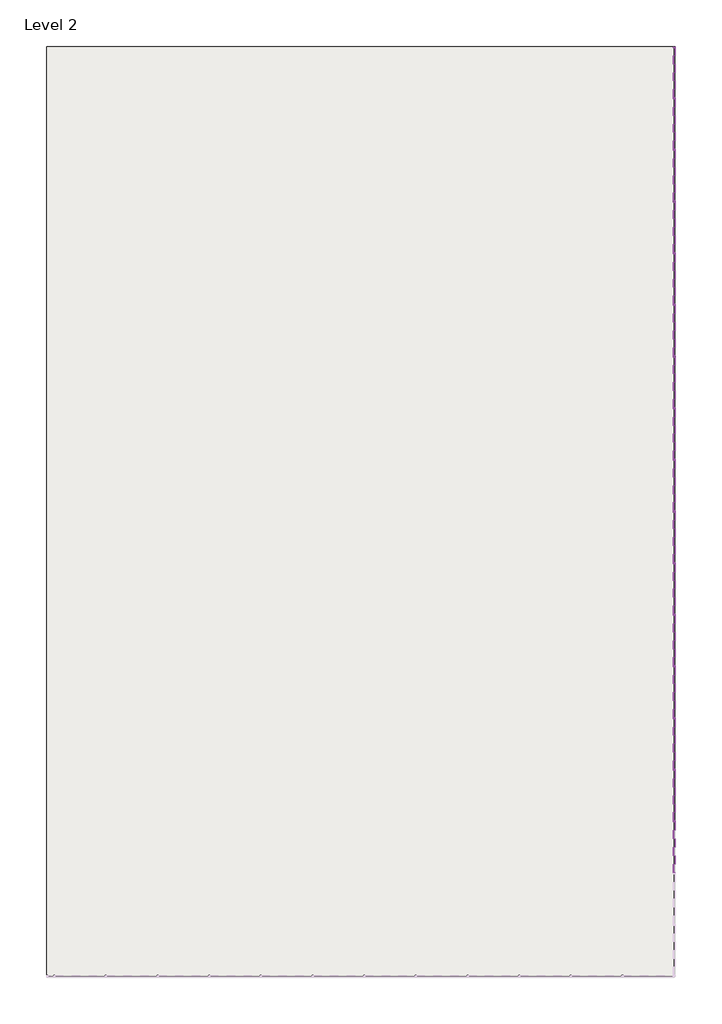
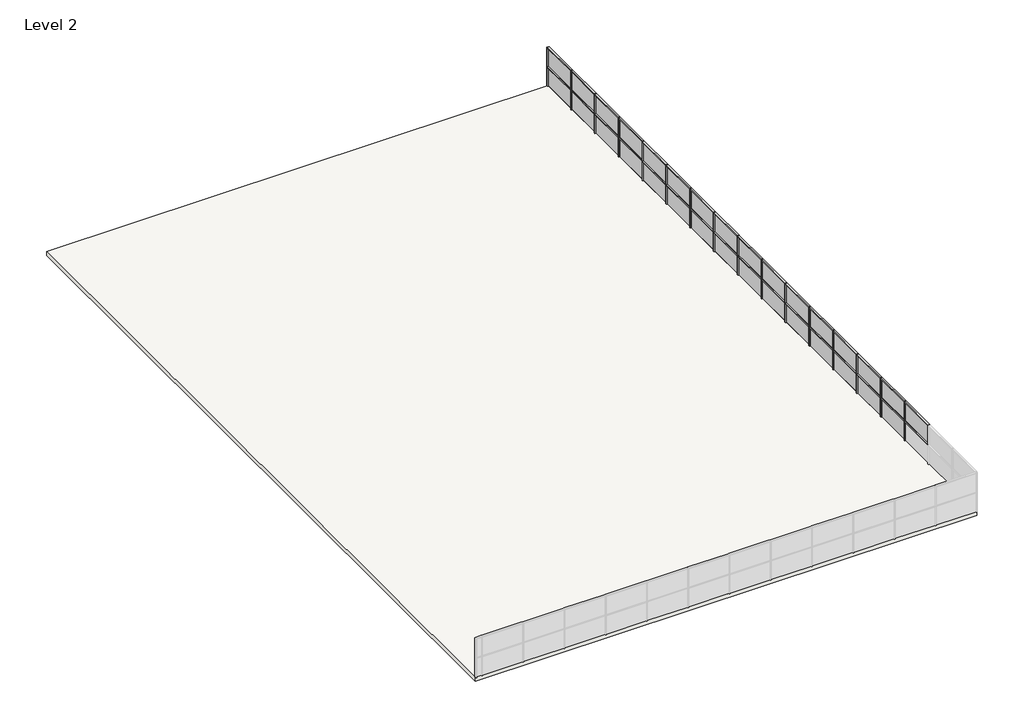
# One storey, part 2 of 2: 64 members, 31 plates, 1 slab.
"""IFC4 building model written with IfcOpenShell, lengths in millimetres."""

from ifc_helpers import new_model, si_unit, frame, origin, place, context, project, spatial, polyline, outline, extrude, transform, mapped, element, save
from components import member_8cef0660, member_c65d5026, member_82905deb, member_4491d118, system_panel_glazed_88acb840, system_panel_glazed_2a6c68b7

model = new_model("IFC4")

# Units and contexts
model_context = context("Model", 3, world=origin())
ifc_project = project(units=[si_unit("LENGTHUNIT", "METRE", prefix="MILLI")], contexts=[model_context])

# Site, building, storey
site = spatial("IfcSite", under=ifc_project)
building = spatial("IfcBuilding", under=site)
storey = spatial("IfcBuildingStorey", under=building, Name="Level 2", Elevation=3048.0)

# Members
placement = place(None, origin())
member_shape = member_8cef0660(model_context)
element("IfcMember", 1, ObjectType="Rectangular Mullion : 2.5\" x 5\" rectangular", at=placement, inside=storey, context=model_context, shape_type="MappedRepresentation", body=[
    mapped(member_shape, transform((-7003.8511466, -33649.3111797, 6096.0), x_axis=(0.0, 0.0, 1.0), y_axis=(1.0, 0.0, 0.0), z_axis=(0.0, 1.0, 0.0))),
])
element("IfcMember", 2, ObjectType="Rectangular Mullion : 2.5\" x 5\" rectangular", at=placement, inside=storey, context=model_context, shape_type="MappedRepresentation", body=[
    mapped(member_shape, transform((-7003.8511466, -30601.3111797, 6096.0), x_axis=(0.0, 0.0, 1.0), y_axis=(1.0, 0.0, 0.0), z_axis=(0.0, 1.0, 0.0))),
])
element("IfcMember", 3, ObjectType="Rectangular Mullion : 2.5\" x 5\" rectangular", at=placement, inside=storey, context=model_context, shape_type="MappedRepresentation", body=[
    mapped(member_shape, transform((-7003.8511466, -27553.3111797, 6096.0), x_axis=(0.0, 0.0, 1.0), y_axis=(1.0, 0.0, 0.0), z_axis=(0.0, 1.0, 0.0))),
])
element("IfcMember", 4, ObjectType="Rectangular Mullion : 2.5\" x 5\" rectangular", at=placement, inside=storey, context=model_context, shape_type="MappedRepresentation", body=[
    mapped(member_shape, transform((-7003.8511466, -24505.3111797, 6096.0), x_axis=(0.0, 0.0, 1.0), y_axis=(1.0, 0.0, 0.0), z_axis=(0.0, 1.0, 0.0))),
])
element("IfcMember", 5, ObjectType="Rectangular Mullion : 2.5\" x 5\" rectangular", at=placement, inside=storey, context=model_context, shape_type="MappedRepresentation", body=[
    mapped(member_shape, transform((-7003.8511466, -21457.3111797, 6096.0), x_axis=(0.0, 0.0, 1.0), y_axis=(1.0, 0.0, 0.0), z_axis=(0.0, 1.0, 0.0))),
])
element("IfcMember", 6, ObjectType="Rectangular Mullion : 2.5\" x 5\" rectangular", at=placement, inside=storey, context=model_context, shape_type="MappedRepresentation", body=[
    mapped(member_shape, transform((-7003.8511466, -18409.3111797, 6096.0), x_axis=(0.0, 0.0, 1.0), y_axis=(1.0, 0.0, 0.0), z_axis=(0.0, 1.0, 0.0))),
])
element("IfcMember", 7, ObjectType="Rectangular Mullion : 2.5\" x 5\" rectangular", at=placement, inside=storey, context=model_context, shape_type="MappedRepresentation", body=[
    mapped(member_shape, transform((-7003.8511466, -15361.3111797, 6096.0), x_axis=(0.0, 0.0, 1.0), y_axis=(1.0, 0.0, 0.0), z_axis=(0.0, 1.0, 0.0))),
])
element("IfcMember", 8, ObjectType="Rectangular Mullion : 2.5\" x 5\" rectangular", at=placement, inside=storey, context=model_context, shape_type="MappedRepresentation", body=[
    mapped(member_shape, transform((-7003.8511466, -12313.3111797, 6096.0), x_axis=(0.0, 0.0, 1.0), y_axis=(1.0, 0.0, 0.0), z_axis=(0.0, 1.0, 0.0))),
])
element("IfcMember", 9, ObjectType="Rectangular Mullion : 2.5\" x 5\" rectangular", at=placement, inside=storey, context=model_context, shape_type="MappedRepresentation", body=[
    mapped(member_shape, transform((-7003.8511466, -9265.3111797, 6096.0), x_axis=(0.0, 0.0, 1.0), y_axis=(1.0, 0.0, 0.0), z_axis=(0.0, 1.0, 0.0))),
])
element("IfcMember", 10, ObjectType="Rectangular Mullion : 2.5\" x 5\" rectangular", at=placement, inside=storey, context=model_context, shape_type="MappedRepresentation", body=[
    mapped(member_shape, transform((-7003.8511466, -6217.3111797, 6096.0), x_axis=(0.0, 0.0, 1.0), y_axis=(1.0, 0.0, 0.0), z_axis=(0.0, 1.0, 0.0))),
])
element("IfcMember", 11, ObjectType="Rectangular Mullion : 2.5\" x 5\" rectangular", at=placement, inside=storey, context=model_context, shape_type="MappedRepresentation", body=[
    mapped(member_shape, transform((-7003.8511466, -3169.3111797, 6096.0), x_axis=(0.0, 0.0, 1.0), y_axis=(1.0, 0.0, 0.0), z_axis=(0.0, 1.0, 0.0))),
])
element("IfcMember", 12, ObjectType="Rectangular Mullion : 2.5\" x 5\" rectangular", at=placement, inside=storey, context=model_context, shape_type="MappedRepresentation", body=[
    mapped(member_shape, transform((-7003.8511466, -121.3111797, 6096.0), x_axis=(0.0, 0.0, 1.0), y_axis=(1.0, 0.0, 0.0), z_axis=(0.0, 1.0, 0.0))),
])
element("IfcMember", 13, ObjectType="Rectangular Mullion : 2.5\" x 5\" rectangular", at=placement, inside=storey, context=model_context, shape_type="MappedRepresentation", body=[
    mapped(member_shape, transform((-7003.8511466, 2926.6888203, 6096.0), x_axis=(0.0, 0.0, 1.0), y_axis=(1.0, 0.0, 0.0), z_axis=(0.0, 1.0, 0.0))),
])
element("IfcMember", 14, ObjectType="Rectangular Mullion : 2.5\" x 5\" rectangular", at=placement, inside=storey, context=model_context, shape_type="MappedRepresentation", body=[
    mapped(member_shape, transform((-7003.8511466, 5974.6888203, 6096.0), x_axis=(0.0, 0.0, 1.0), y_axis=(1.0, 0.0, 0.0), z_axis=(0.0, 1.0, 0.0))),
])
element("IfcMember", 15, ObjectType="Rectangular Mullion : 2.5\" x 5\" rectangular", at=placement, inside=storey, context=model_context, shape_type="MappedRepresentation", body=[
    mapped(member_shape, transform((-7003.8511466, 9022.6888203, 6096.0), x_axis=(0.0, 0.0, 1.0), y_axis=(1.0, 0.0, 0.0), z_axis=(0.0, 1.0, 0.0))),
])
element("IfcMember", 16, ObjectType="Rectangular Mullion : 2.5\" x 5\" rectangular", at=placement, inside=storey, context=model_context, shape_type="MappedRepresentation", body=[
    mapped(member_shape, transform((-7003.8511466, -33649.3111797, 4572.0), x_axis=(0.0, 0.0, 1.0), y_axis=(1.0, 0.0, 0.0), z_axis=(0.0, 1.0, 0.0))),
])
element("IfcMember", 17, ObjectType="Rectangular Mullion : 2.5\" x 5\" rectangular", at=placement, inside=storey, context=model_context, shape_type="MappedRepresentation", body=[
    mapped(member_shape, transform((-7003.8511466, -30601.3111797, 4572.0), x_axis=(0.0, 0.0, 1.0), y_axis=(1.0, 0.0, 0.0), z_axis=(0.0, 1.0, 0.0))),
])
element("IfcMember", 18, ObjectType="Rectangular Mullion : 2.5\" x 5\" rectangular", at=placement, inside=storey, context=model_context, shape_type="MappedRepresentation", body=[
    mapped(member_shape, transform((-7003.8511466, -27553.3111797, 4572.0), x_axis=(0.0, 0.0, 1.0), y_axis=(1.0, 0.0, 0.0), z_axis=(0.0, 1.0, 0.0))),
])
element("IfcMember", 19, ObjectType="Rectangular Mullion : 2.5\" x 5\" rectangular", at=placement, inside=storey, context=model_context, shape_type="MappedRepresentation", body=[
    mapped(member_shape, transform((-7003.8511466, -24505.3111797, 4572.0), x_axis=(0.0, 0.0, 1.0), y_axis=(1.0, 0.0, 0.0), z_axis=(0.0, 1.0, 0.0))),
])
element("IfcMember", 20, ObjectType="Rectangular Mullion : 2.5\" x 5\" rectangular", at=placement, inside=storey, context=model_context, shape_type="MappedRepresentation", body=[
    mapped(member_shape, transform((-7003.8511466, -21457.3111797, 4572.0), x_axis=(0.0, 0.0, 1.0), y_axis=(1.0, 0.0, 0.0), z_axis=(0.0, 1.0, 0.0))),
])
element("IfcMember", 21, ObjectType="Rectangular Mullion : 2.5\" x 5\" rectangular", at=placement, inside=storey, context=model_context, shape_type="MappedRepresentation", body=[
    mapped(member_shape, transform((-7003.8511466, -18409.3111797, 4572.0), x_axis=(0.0, 0.0, 1.0), y_axis=(1.0, 0.0, 0.0), z_axis=(0.0, 1.0, 0.0))),
])
element("IfcMember", 22, ObjectType="Rectangular Mullion : 2.5\" x 5\" rectangular", at=placement, inside=storey, context=model_context, shape_type="MappedRepresentation", body=[
    mapped(member_shape, transform((-7003.8511466, -15361.3111797, 4572.0), x_axis=(0.0, 0.0, 1.0), y_axis=(1.0, 0.0, 0.0), z_axis=(0.0, 1.0, 0.0))),
])
element("IfcMember", 23, ObjectType="Rectangular Mullion : 2.5\" x 5\" rectangular", at=placement, inside=storey, context=model_context, shape_type="MappedRepresentation", body=[
    mapped(member_shape, transform((-7003.8511466, -12313.3111797, 4572.0), x_axis=(0.0, 0.0, 1.0), y_axis=(1.0, 0.0, 0.0), z_axis=(0.0, 1.0, 0.0))),
])
element("IfcMember", 24, ObjectType="Rectangular Mullion : 2.5\" x 5\" rectangular", at=placement, inside=storey, context=model_context, shape_type="MappedRepresentation", body=[
    mapped(member_shape, transform((-7003.8511466, -9265.3111797, 4572.0), x_axis=(0.0, 0.0, 1.0), y_axis=(1.0, 0.0, 0.0), z_axis=(0.0, 1.0, 0.0))),
])
element("IfcMember", 25, ObjectType="Rectangular Mullion : 2.5\" x 5\" rectangular", at=placement, inside=storey, context=model_context, shape_type="MappedRepresentation", body=[
    mapped(member_shape, transform((-7003.8511466, -6217.3111797, 4572.0), x_axis=(0.0, 0.0, 1.0), y_axis=(1.0, 0.0, 0.0), z_axis=(0.0, 1.0, 0.0))),
])
element("IfcMember", 26, ObjectType="Rectangular Mullion : 2.5\" x 5\" rectangular", at=placement, inside=storey, context=model_context, shape_type="MappedRepresentation", body=[
    mapped(member_shape, transform((-7003.8511466, -3169.3111797, 4572.0), x_axis=(0.0, 0.0, 1.0), y_axis=(1.0, 0.0, 0.0), z_axis=(0.0, 1.0, 0.0))),
])
element("IfcMember", 27, ObjectType="Rectangular Mullion : 2.5\" x 5\" rectangular", at=placement, inside=storey, context=model_context, shape_type="MappedRepresentation", body=[
    mapped(member_shape, transform((-7003.8511466, -121.3111797, 4572.0), x_axis=(0.0, 0.0, 1.0), y_axis=(1.0, 0.0, 0.0), z_axis=(0.0, 1.0, 0.0))),
])
element("IfcMember", 28, ObjectType="Rectangular Mullion : 2.5\" x 5\" rectangular", at=placement, inside=storey, context=model_context, shape_type="MappedRepresentation", body=[
    mapped(member_shape, transform((-7003.8511466, 2926.6888203, 4572.0), x_axis=(0.0, 0.0, 1.0), y_axis=(1.0, 0.0, 0.0), z_axis=(0.0, 1.0, 0.0))),
])
element("IfcMember", 29, ObjectType="Rectangular Mullion : 2.5\" x 5\" rectangular", at=placement, inside=storey, context=model_context, shape_type="MappedRepresentation", body=[
    mapped(member_shape, transform((-7003.8511466, 5974.6888203, 4572.0), x_axis=(0.0, 0.0, 1.0), y_axis=(1.0, 0.0, 0.0), z_axis=(0.0, 1.0, 0.0))),
])
element("IfcMember", 30, ObjectType="Rectangular Mullion : 2.5\" x 5\" rectangular", at=placement, inside=storey, context=model_context, shape_type="MappedRepresentation", body=[
    mapped(member_shape, transform((-7003.8511466, 9022.6888203, 4572.0), x_axis=(0.0, 0.0, 1.0), y_axis=(1.0, 0.0, 0.0), z_axis=(0.0, 1.0, 0.0))),
])
member_2_shape = member_c65d5026(model_context)
element("IfcMember", 31, ObjectType="Rectangular Mullion : 2.5\" x 5\" rectangular", at=placement, inside=storey, context=model_context, shape_type="MappedRepresentation", body=[
    mapped(member_2_shape, transform((-7003.8511466, 12038.9388203, 6096.0), x_axis=(0.0, 0.0, 1.0), y_axis=(1.0, 0.0, 0.0), z_axis=(0.0, 1.0, 0.0))),
])
element("IfcMember", 32, ObjectType="Rectangular Mullion : 2.5\" x 5\" rectangular", at=placement, inside=storey, context=model_context, shape_type="MappedRepresentation", body=[
    mapped(member_2_shape, transform((-7003.8511466, 12038.9388203, 4572.0), x_axis=(0.0, 0.0, 1.0), y_axis=(1.0, 0.0, 0.0), z_axis=(0.0, 1.0, 0.0))),
])
member_3_shape = member_82905deb(model_context)
element("IfcMember", 33, ObjectType="Rectangular Mullion : 2.5\" x 5\" rectangular", at=placement, inside=storey, context=model_context, shape_type="MappedRepresentation", body=[
    mapped(member_3_shape, transform((-7003.8511466, -15329.5611797, 6096.0), x_axis=(0.0, -1.0, 0.0), y_axis=(1.0, 0.0, 0.0), z_axis=(0.0, 0.0, 1.0))),
])
element("IfcMember", 34, ObjectType="Rectangular Mullion : 2.5\" x 5\" rectangular", at=placement, inside=storey, context=model_context, shape_type="MappedRepresentation", body=[
    mapped(member_3_shape, transform((-7003.8511466, -15329.5611797, 4572.0), x_axis=(0.0, -1.0, 0.0), y_axis=(1.0, 0.0, 0.0), z_axis=(0.0, 0.0, 1.0))),
])
element("IfcMember", 35, ObjectType="Rectangular Mullion : 2.5\" x 5\" rectangular", at=placement, inside=storey, context=model_context, shape_type="MappedRepresentation", body=[
    mapped(member_3_shape, transform((-7003.8511466, -12281.5611797, 6096.0), x_axis=(0.0, -1.0, 0.0), y_axis=(1.0, 0.0, 0.0), z_axis=(0.0, 0.0, 1.0))),
])
element("IfcMember", 36, ObjectType="Rectangular Mullion : 2.5\" x 5\" rectangular", at=placement, inside=storey, context=model_context, shape_type="MappedRepresentation", body=[
    mapped(member_3_shape, transform((-7003.8511466, -12281.5611797, 4572.0), x_axis=(0.0, -1.0, 0.0), y_axis=(1.0, 0.0, 0.0), z_axis=(0.0, 0.0, 1.0))),
])
element("IfcMember", 37, ObjectType="Rectangular Mullion : 2.5\" x 5\" rectangular", at=placement, inside=storey, context=model_context, shape_type="MappedRepresentation", body=[
    mapped(member_3_shape, transform((-7003.8511466, -9233.5611797, 6096.0), x_axis=(0.0, -1.0, 0.0), y_axis=(1.0, 0.0, 0.0), z_axis=(0.0, 0.0, 1.0))),
])
element("IfcMember", 38, ObjectType="Rectangular Mullion : 2.5\" x 5\" rectangular", at=placement, inside=storey, context=model_context, shape_type="MappedRepresentation", body=[
    mapped(member_3_shape, transform((-7003.8511466, -9233.5611797, 4572.0), x_axis=(0.0, -1.0, 0.0), y_axis=(1.0, 0.0, 0.0), z_axis=(0.0, 0.0, 1.0))),
])
element("IfcMember", 39, ObjectType="Rectangular Mullion : 2.5\" x 5\" rectangular", at=placement, inside=storey, context=model_context, shape_type="MappedRepresentation", body=[
    mapped(member_3_shape, transform((-7003.8511466, -6185.5611797, 6096.0), x_axis=(0.0, -1.0, 0.0), y_axis=(1.0, 0.0, 0.0), z_axis=(0.0, 0.0, 1.0))),
])
element("IfcMember", 40, ObjectType="Rectangular Mullion : 2.5\" x 5\" rectangular", at=placement, inside=storey, context=model_context, shape_type="MappedRepresentation", body=[
    mapped(member_3_shape, transform((-7003.8511466, -6185.5611797, 4572.0), x_axis=(0.0, -1.0, 0.0), y_axis=(1.0, 0.0, 0.0), z_axis=(0.0, 0.0, 1.0))),
])
element("IfcMember", 41, ObjectType="Rectangular Mullion : 2.5\" x 5\" rectangular", at=placement, inside=storey, context=model_context, shape_type="MappedRepresentation", body=[
    mapped(member_3_shape, transform((-7003.8511466, -3137.5611797, 6096.0), x_axis=(0.0, -1.0, 0.0), y_axis=(1.0, 0.0, 0.0), z_axis=(0.0, 0.0, 1.0))),
])
element("IfcMember", 42, ObjectType="Rectangular Mullion : 2.5\" x 5\" rectangular", at=placement, inside=storey, context=model_context, shape_type="MappedRepresentation", body=[
    mapped(member_3_shape, transform((-7003.8511466, -3137.5611797, 4572.0), x_axis=(0.0, -1.0, 0.0), y_axis=(1.0, 0.0, 0.0), z_axis=(0.0, 0.0, 1.0))),
])
element("IfcMember", 43, ObjectType="Rectangular Mullion : 2.5\" x 5\" rectangular", at=placement, inside=storey, context=model_context, shape_type="MappedRepresentation", body=[
    mapped(member_3_shape, transform((-7003.8511466, -89.5611797, 6096.0), x_axis=(0.0, -1.0, 0.0), y_axis=(1.0, 0.0, 0.0), z_axis=(0.0, 0.0, 1.0))),
])
element("IfcMember", 44, ObjectType="Rectangular Mullion : 2.5\" x 5\" rectangular", at=placement, inside=storey, context=model_context, shape_type="MappedRepresentation", body=[
    mapped(member_3_shape, transform((-7003.8511466, -89.5611797, 4572.0), x_axis=(0.0, -1.0, 0.0), y_axis=(1.0, 0.0, 0.0), z_axis=(0.0, 0.0, 1.0))),
])
element("IfcMember", 45, ObjectType="Rectangular Mullion : 2.5\" x 5\" rectangular", at=placement, inside=storey, context=model_context, shape_type="MappedRepresentation", body=[
    mapped(member_3_shape, transform((-7003.8511466, 2958.4388203, 6096.0), x_axis=(0.0, -1.0, 0.0), y_axis=(1.0, 0.0, 0.0), z_axis=(0.0, 0.0, 1.0))),
])
element("IfcMember", 46, ObjectType="Rectangular Mullion : 2.5\" x 5\" rectangular", at=placement, inside=storey, context=model_context, shape_type="MappedRepresentation", body=[
    mapped(member_3_shape, transform((-7003.8511466, 2958.4388203, 4572.0), x_axis=(0.0, -1.0, 0.0), y_axis=(1.0, 0.0, 0.0), z_axis=(0.0, 0.0, 1.0))),
])
element("IfcMember", 47, ObjectType="Rectangular Mullion : 2.5\" x 5\" rectangular", at=placement, inside=storey, context=model_context, shape_type="MappedRepresentation", body=[
    mapped(member_3_shape, transform((-7003.8511466, 6006.4388203, 6096.0), x_axis=(0.0, -1.0, 0.0), y_axis=(1.0, 0.0, 0.0), z_axis=(0.0, 0.0, 1.0))),
])
element("IfcMember", 48, ObjectType="Rectangular Mullion : 2.5\" x 5\" rectangular", at=placement, inside=storey, context=model_context, shape_type="MappedRepresentation", body=[
    mapped(member_3_shape, transform((-7003.8511466, 6006.4388203, 4572.0), x_axis=(0.0, -1.0, 0.0), y_axis=(1.0, 0.0, 0.0), z_axis=(0.0, 0.0, 1.0))),
])
element("IfcMember", 49, ObjectType="Rectangular Mullion : 2.5\" x 5\" rectangular", at=placement, inside=storey, context=model_context, shape_type="MappedRepresentation", body=[
    mapped(member_3_shape, transform((-7003.8511466, 9054.4388203, 6096.0), x_axis=(0.0, -1.0, 0.0), y_axis=(1.0, 0.0, 0.0), z_axis=(0.0, 0.0, 1.0))),
])
element("IfcMember", 50, ObjectType="Rectangular Mullion : 2.5\" x 5\" rectangular", at=placement, inside=storey, context=model_context, shape_type="MappedRepresentation", body=[
    mapped(member_3_shape, transform((-7003.8511466, 9054.4388203, 4572.0), x_axis=(0.0, -1.0, 0.0), y_axis=(1.0, 0.0, 0.0), z_axis=(0.0, 0.0, 1.0))),
])
element("IfcMember", 51, ObjectType="Rectangular Mullion : 2.5\" x 5\" rectangular", at=placement, inside=storey, context=model_context, shape_type="MappedRepresentation", body=[
    mapped(member_3_shape, transform((-7003.8511466, -30569.5611797, 4572.0), x_axis=(0.0, -1.0, 0.0), y_axis=(1.0, 0.0, 0.0), z_axis=(0.0, 0.0, 1.0))),
])
element("IfcMember", 52, ObjectType="Rectangular Mullion : 2.5\" x 5\" rectangular", at=placement, inside=storey, context=model_context, shape_type="MappedRepresentation", body=[
    mapped(member_3_shape, transform((-7003.8511466, -27521.5611797, 6096.0), x_axis=(0.0, -1.0, 0.0), y_axis=(1.0, 0.0, 0.0), z_axis=(0.0, 0.0, 1.0))),
])
element("IfcMember", 53, ObjectType="Rectangular Mullion : 2.5\" x 5\" rectangular", at=placement, inside=storey, context=model_context, shape_type="MappedRepresentation", body=[
    mapped(member_3_shape, transform((-7003.8511466, -27521.5611797, 4572.0), x_axis=(0.0, -1.0, 0.0), y_axis=(1.0, 0.0, 0.0), z_axis=(0.0, 0.0, 1.0))),
])
element("IfcMember", 54, ObjectType="Rectangular Mullion : 2.5\" x 5\" rectangular", at=placement, inside=storey, context=model_context, shape_type="MappedRepresentation", body=[
    mapped(member_3_shape, transform((-7003.8511466, -24473.5611797, 6096.0), x_axis=(0.0, -1.0, 0.0), y_axis=(1.0, 0.0, 0.0), z_axis=(0.0, 0.0, 1.0))),
])
element("IfcMember", 55, ObjectType="Rectangular Mullion : 2.5\" x 5\" rectangular", at=placement, inside=storey, context=model_context, shape_type="MappedRepresentation", body=[
    mapped(member_3_shape, transform((-7003.8511466, -24473.5611797, 4572.0), x_axis=(0.0, -1.0, 0.0), y_axis=(1.0, 0.0, 0.0), z_axis=(0.0, 0.0, 1.0))),
])
element("IfcMember", 56, ObjectType="Rectangular Mullion : 2.5\" x 5\" rectangular", at=placement, inside=storey, context=model_context, shape_type="MappedRepresentation", body=[
    mapped(member_3_shape, transform((-7003.8511466, -21425.5611797, 6096.0), x_axis=(0.0, -1.0, 0.0), y_axis=(1.0, 0.0, 0.0), z_axis=(0.0, 0.0, 1.0))),
])
element("IfcMember", 57, ObjectType="Rectangular Mullion : 2.5\" x 5\" rectangular", at=placement, inside=storey, context=model_context, shape_type="MappedRepresentation", body=[
    mapped(member_3_shape, transform((-7003.8511466, -21425.5611797, 4572.0), x_axis=(0.0, -1.0, 0.0), y_axis=(1.0, 0.0, 0.0), z_axis=(0.0, 0.0, 1.0))),
])
element("IfcMember", 58, ObjectType="Rectangular Mullion : 2.5\" x 5\" rectangular", at=placement, inside=storey, context=model_context, shape_type="MappedRepresentation", body=[
    mapped(member_3_shape, transform((-7003.8511466, -18377.5611797, 6096.0), x_axis=(0.0, -1.0, 0.0), y_axis=(1.0, 0.0, 0.0), z_axis=(0.0, 0.0, 1.0))),
])
element("IfcMember", 59, ObjectType="Rectangular Mullion : 2.5\" x 5\" rectangular", at=placement, inside=storey, context=model_context, shape_type="MappedRepresentation", body=[
    mapped(member_3_shape, transform((-7003.8511466, -18377.5611797, 4572.0), x_axis=(0.0, -1.0, 0.0), y_axis=(1.0, 0.0, 0.0), z_axis=(0.0, 0.0, 1.0))),
])
element("IfcMember", 60, ObjectType="Rectangular Mullion : 2.5\" x 5\" rectangular", at=placement, inside=storey, context=model_context, shape_type="MappedRepresentation", body=[
    mapped(member_3_shape, transform((-7003.8511466, -33617.5611797, 6096.0), x_axis=(0.0, -1.0, 0.0), y_axis=(1.0, 0.0, 0.0), z_axis=(0.0, 0.0, 1.0))),
])
element("IfcMember", 61, ObjectType="Rectangular Mullion : 2.5\" x 5\" rectangular", at=placement, inside=storey, context=model_context, shape_type="MappedRepresentation", body=[
    mapped(member_3_shape, transform((-7003.8511466, -33617.5611797, 4572.0), x_axis=(0.0, -1.0, 0.0), y_axis=(1.0, 0.0, 0.0), z_axis=(0.0, 0.0, 1.0))),
])
element("IfcMember", 62, ObjectType="Rectangular Mullion : 2.5\" x 5\" rectangular", at=placement, inside=storey, context=model_context, shape_type="MappedRepresentation", body=[
    mapped(member_3_shape, transform((-7003.8511466, -30569.5611797, 6096.0), x_axis=(0.0, -1.0, 0.0), y_axis=(1.0, 0.0, 0.0), z_axis=(0.0, 0.0, 1.0))),
])
member_4_shape = member_4491d118(model_context)
element("IfcMember", 63, ObjectType="Rectangular Mullion : 2.5\" x 5\" rectangular", at=placement, inside=storey, context=model_context, shape_type="MappedRepresentation", body=[
    mapped(member_4_shape, transform((-7003.8511466, 12102.4388203, 4572.0), x_axis=(0.0, 1.0, 0.0), y_axis=(1.0, 0.0, 0.0), z_axis=(0.0, 0.0, -1.0))),
])
element("IfcMember", 64, ObjectType="Rectangular Mullion : 2.5\" x 5\" rectangular", at=placement, inside=storey, context=model_context, shape_type="MappedRepresentation", body=[
    mapped(member_4_shape, transform((-7003.8511466, 12102.4388203, 3048.0), x_axis=(0.0, 1.0, 0.0), y_axis=(1.0, 0.0, 0.0), z_axis=(0.0, 0.0, -1.0))),
])

# Plates
system_panel_glazed_shape = system_panel_glazed_88acb840(model_context)
element("IfcPlate", 65, ObjectType="System Panel : Glazed", at=placement, inside=storey, context=model_context, shape_type="MappedRepresentation", body=[
    mapped(system_panel_glazed_shape, transform((-7003.8511466, 10562.5638203, 3079.75), x_axis=(0.0, -1.0, 0.0), y_axis=(1.0, 0.0, 0.0), z_axis=(0.0, 0.0, 1.0))),
])
element("IfcPlate", 66, ObjectType="System Panel : Glazed", at=placement, inside=storey, context=model_context, shape_type="MappedRepresentation", body=[
    mapped(system_panel_glazed_shape, transform((-7003.8511466, 10562.5638203, 4603.75), x_axis=(0.0, -1.0, 0.0), y_axis=(1.0, 0.0, 0.0), z_axis=(0.0, 0.0, 1.0))),
])
system_panel_glazed_2_shape = system_panel_glazed_2a6c68b7(model_context)
element("IfcPlate", 67, ObjectType="System Panel : Glazed", at=placement, inside=storey, context=model_context, shape_type="MappedRepresentation", body=[
    mapped(system_panel_glazed_2_shape, transform((-7003.8511466, 7530.4388203, 3079.75), x_axis=(0.0, -1.0, 0.0), y_axis=(1.0, 0.0, 0.0), z_axis=(0.0, 0.0, 1.0))),
])
element("IfcPlate", 68, ObjectType="System Panel : Glazed", at=placement, inside=storey, context=model_context, shape_type="MappedRepresentation", body=[
    mapped(system_panel_glazed_2_shape, transform((-7003.8511466, 4482.4388203, 3079.75), x_axis=(0.0, -1.0, 0.0), y_axis=(1.0, 0.0, 0.0), z_axis=(0.0, 0.0, 1.0))),
])
element("IfcPlate", 69, ObjectType="System Panel : Glazed", at=placement, inside=storey, context=model_context, shape_type="MappedRepresentation", body=[
    mapped(system_panel_glazed_2_shape, transform((-7003.8511466, 1434.4388203, 3079.75), x_axis=(0.0, -1.0, 0.0), y_axis=(1.0, 0.0, 0.0), z_axis=(0.0, 0.0, 1.0))),
])
element("IfcPlate", 70, ObjectType="System Panel : Glazed", at=placement, inside=storey, context=model_context, shape_type="MappedRepresentation", body=[
    mapped(system_panel_glazed_2_shape, transform((-7003.8511466, -1613.5611797, 3079.75), x_axis=(0.0, -1.0, 0.0), y_axis=(1.0, 0.0, 0.0), z_axis=(0.0, 0.0, 1.0))),
])
element("IfcPlate", 71, ObjectType="System Panel : Glazed", at=placement, inside=storey, context=model_context, shape_type="MappedRepresentation", body=[
    mapped(system_panel_glazed_2_shape, transform((-7003.8511466, -4661.5611797, 3079.75), x_axis=(0.0, -1.0, 0.0), y_axis=(1.0, 0.0, 0.0), z_axis=(0.0, 0.0, 1.0))),
])
element("IfcPlate", 72, ObjectType="System Panel : Glazed", at=placement, inside=storey, context=model_context, shape_type="MappedRepresentation", body=[
    mapped(system_panel_glazed_2_shape, transform((-7003.8511466, -7709.5611797, 3079.75), x_axis=(0.0, -1.0, 0.0), y_axis=(1.0, 0.0, 0.0), z_axis=(0.0, 0.0, 1.0))),
])
element("IfcPlate", 73, ObjectType="System Panel : Glazed", at=placement, inside=storey, context=model_context, shape_type="MappedRepresentation", body=[
    mapped(system_panel_glazed_2_shape, transform((-7003.8511466, -10757.5611797, 3079.75), x_axis=(0.0, -1.0, 0.0), y_axis=(1.0, 0.0, 0.0), z_axis=(0.0, 0.0, 1.0))),
])
element("IfcPlate", 74, ObjectType="System Panel : Glazed", at=placement, inside=storey, context=model_context, shape_type="MappedRepresentation", body=[
    mapped(system_panel_glazed_2_shape, transform((-7003.8511466, -13805.5611797, 3079.75), x_axis=(0.0, -1.0, 0.0), y_axis=(1.0, 0.0, 0.0), z_axis=(0.0, 0.0, 1.0))),
])
element("IfcPlate", 75, ObjectType="System Panel : Glazed", at=placement, inside=storey, context=model_context, shape_type="MappedRepresentation", body=[
    mapped(system_panel_glazed_2_shape, transform((-7003.8511466, -16853.5611797, 3079.75), x_axis=(0.0, -1.0, 0.0), y_axis=(1.0, 0.0, 0.0), z_axis=(0.0, 0.0, 1.0))),
])
element("IfcPlate", 76, ObjectType="System Panel : Glazed", at=placement, inside=storey, context=model_context, shape_type="MappedRepresentation", body=[
    mapped(system_panel_glazed_2_shape, transform((-7003.8511466, -19901.5611797, 3079.75), x_axis=(0.0, -1.0, 0.0), y_axis=(1.0, 0.0, 0.0), z_axis=(0.0, 0.0, 1.0))),
])
element("IfcPlate", 77, ObjectType="System Panel : Glazed", at=placement, inside=storey, context=model_context, shape_type="MappedRepresentation", body=[
    mapped(system_panel_glazed_2_shape, transform((-7003.8511466, -22949.5611797, 3079.75), x_axis=(0.0, -1.0, 0.0), y_axis=(1.0, 0.0, 0.0), z_axis=(0.0, 0.0, 1.0))),
])
element("IfcPlate", 78, ObjectType="System Panel : Glazed", at=placement, inside=storey, context=model_context, shape_type="MappedRepresentation", body=[
    mapped(system_panel_glazed_2_shape, transform((-7003.8511466, -25997.5611797, 3079.75), x_axis=(0.0, -1.0, 0.0), y_axis=(1.0, 0.0, 0.0), z_axis=(0.0, 0.0, 1.0))),
])
element("IfcPlate", 79, ObjectType="System Panel : Glazed", at=placement, inside=storey, context=model_context, shape_type="MappedRepresentation", body=[
    mapped(system_panel_glazed_2_shape, transform((-7003.8511466, -29045.5611797, 3079.75), x_axis=(0.0, -1.0, 0.0), y_axis=(1.0, 0.0, 0.0), z_axis=(0.0, 0.0, 1.0))),
])
element("IfcPlate", 80, ObjectType="System Panel : Glazed", at=placement, inside=storey, context=model_context, shape_type="MappedRepresentation", body=[
    mapped(system_panel_glazed_2_shape, transform((-7003.8511466, -32093.5611797, 3079.75), x_axis=(0.0, -1.0, 0.0), y_axis=(1.0, 0.0, 0.0), z_axis=(0.0, 0.0, 1.0))),
])
element("IfcPlate", 81, ObjectType="System Panel : Glazed", at=placement, inside=storey, context=model_context, shape_type="MappedRepresentation", body=[
    mapped(system_panel_glazed_2_shape, transform((-7003.8511466, 7530.4388203, 4603.75), x_axis=(0.0, -1.0, 0.0), y_axis=(1.0, 0.0, 0.0), z_axis=(0.0, 0.0, 1.0))),
])
element("IfcPlate", 82, ObjectType="System Panel : Glazed", at=placement, inside=storey, context=model_context, shape_type="MappedRepresentation", body=[
    mapped(system_panel_glazed_2_shape, transform((-7003.8511466, 4482.4388203, 4603.75), x_axis=(0.0, -1.0, 0.0), y_axis=(1.0, 0.0, 0.0), z_axis=(0.0, 0.0, 1.0))),
])
element("IfcPlate", 83, ObjectType="System Panel : Glazed", at=placement, inside=storey, context=model_context, shape_type="MappedRepresentation", body=[
    mapped(system_panel_glazed_2_shape, transform((-7003.8511466, 1434.4388203, 4603.75), x_axis=(0.0, -1.0, 0.0), y_axis=(1.0, 0.0, 0.0), z_axis=(0.0, 0.0, 1.0))),
])
element("IfcPlate", 84, ObjectType="System Panel : Glazed", at=placement, inside=storey, context=model_context, shape_type="MappedRepresentation", body=[
    mapped(system_panel_glazed_2_shape, transform((-7003.8511466, -1613.5611797, 4603.75), x_axis=(0.0, -1.0, 0.0), y_axis=(1.0, 0.0, 0.0), z_axis=(0.0, 0.0, 1.0))),
])
element("IfcPlate", 85, ObjectType="System Panel : Glazed", at=placement, inside=storey, context=model_context, shape_type="MappedRepresentation", body=[
    mapped(system_panel_glazed_2_shape, transform((-7003.8511466, -4661.5611797, 4603.75), x_axis=(0.0, -1.0, 0.0), y_axis=(1.0, 0.0, 0.0), z_axis=(0.0, 0.0, 1.0))),
])
element("IfcPlate", 86, ObjectType="System Panel : Glazed", at=placement, inside=storey, context=model_context, shape_type="MappedRepresentation", body=[
    mapped(system_panel_glazed_2_shape, transform((-7003.8511466, -7709.5611797, 4603.75), x_axis=(0.0, -1.0, 0.0), y_axis=(1.0, 0.0, 0.0), z_axis=(0.0, 0.0, 1.0))),
])
element("IfcPlate", 87, ObjectType="System Panel : Glazed", at=placement, inside=storey, context=model_context, shape_type="MappedRepresentation", body=[
    mapped(system_panel_glazed_2_shape, transform((-7003.8511466, -10757.5611797, 4603.75), x_axis=(0.0, -1.0, 0.0), y_axis=(1.0, 0.0, 0.0), z_axis=(0.0, 0.0, 1.0))),
])
element("IfcPlate", 88, ObjectType="System Panel : Glazed", at=placement, inside=storey, context=model_context, shape_type="MappedRepresentation", body=[
    mapped(system_panel_glazed_2_shape, transform((-7003.8511466, -13805.5611797, 4603.75), x_axis=(0.0, -1.0, 0.0), y_axis=(1.0, 0.0, 0.0), z_axis=(0.0, 0.0, 1.0))),
])
element("IfcPlate", 89, ObjectType="System Panel : Glazed", at=placement, inside=storey, context=model_context, shape_type="MappedRepresentation", body=[
    mapped(system_panel_glazed_2_shape, transform((-7003.8511466, -16853.5611797, 4603.75), x_axis=(0.0, -1.0, 0.0), y_axis=(1.0, 0.0, 0.0), z_axis=(0.0, 0.0, 1.0))),
])
element("IfcPlate", 90, ObjectType="System Panel : Glazed", at=placement, inside=storey, context=model_context, shape_type="MappedRepresentation", body=[
    mapped(system_panel_glazed_2_shape, transform((-7003.8511466, -19901.5611797, 4603.75), x_axis=(0.0, -1.0, 0.0), y_axis=(1.0, 0.0, 0.0), z_axis=(0.0, 0.0, 1.0))),
])
element("IfcPlate", 91, ObjectType="System Panel : Glazed", at=placement, inside=storey, context=model_context, shape_type="MappedRepresentation", body=[
    mapped(system_panel_glazed_2_shape, transform((-7003.8511466, -22949.5611797, 4603.75), x_axis=(0.0, -1.0, 0.0), y_axis=(1.0, 0.0, 0.0), z_axis=(0.0, 0.0, 1.0))),
])
element("IfcPlate", 92, ObjectType="System Panel : Glazed", at=placement, inside=storey, context=model_context, shape_type="MappedRepresentation", body=[
    mapped(system_panel_glazed_2_shape, transform((-7003.8511466, -25997.5611797, 4603.75), x_axis=(0.0, -1.0, 0.0), y_axis=(1.0, 0.0, 0.0), z_axis=(0.0, 0.0, 1.0))),
])
element("IfcPlate", 93, ObjectType="System Panel : Glazed", at=placement, inside=storey, context=model_context, shape_type="MappedRepresentation", body=[
    mapped(system_panel_glazed_2_shape, transform((-7003.8511466, -29045.5611797, 4603.75), x_axis=(0.0, -1.0, 0.0), y_axis=(1.0, 0.0, 0.0), z_axis=(0.0, 0.0, 1.0))),
])
element("IfcPlate", 94, ObjectType="System Panel : Glazed", at=placement, inside=storey, context=model_context, shape_type="MappedRepresentation", body=[
    mapped(system_panel_glazed_2_shape, transform((-7003.8511466, -32093.5611797, 4603.75), x_axis=(0.0, -1.0, 0.0), y_axis=(1.0, 0.0, 0.0), z_axis=(0.0, 0.0, 1.0))),
])
element("IfcPlate", 95, ObjectType="System Panel : Glazed", at=placement, inside=storey, context=model_context, shape_type="MappedRepresentation", body=[
    mapped(system_panel_glazed_2_shape, transform((-7003.8511466, -35141.5611797, 4603.75), x_axis=(0.0, -1.0, 0.0), y_axis=(1.0, 0.0, 0.0), z_axis=(0.0, 0.0, 1.0))),
])

# Slab
element("IfcSlab", 96, ObjectType="Generic - 12\"", at=placement, inside=storey, context=model_context, shape_type="SweptSolid", body=[
    extrude(outline(polyline([(-7003.8511466, 12102.4388203), (-7003.8511466, -42761.5611797), (-44037.0511466, -42761.5611797), (-44037.0511466, 12102.4388203), (-7003.8511466, 12102.4388203)])), frame((0.0, 0.0, 2743.2), z_axis=(0.0, 0.0, 1.0), x_axis=(1.0, 0.0, 0.0)), (0.0, 0.0, 1.0), 304.8),
])

save(model, "model.ifc")
